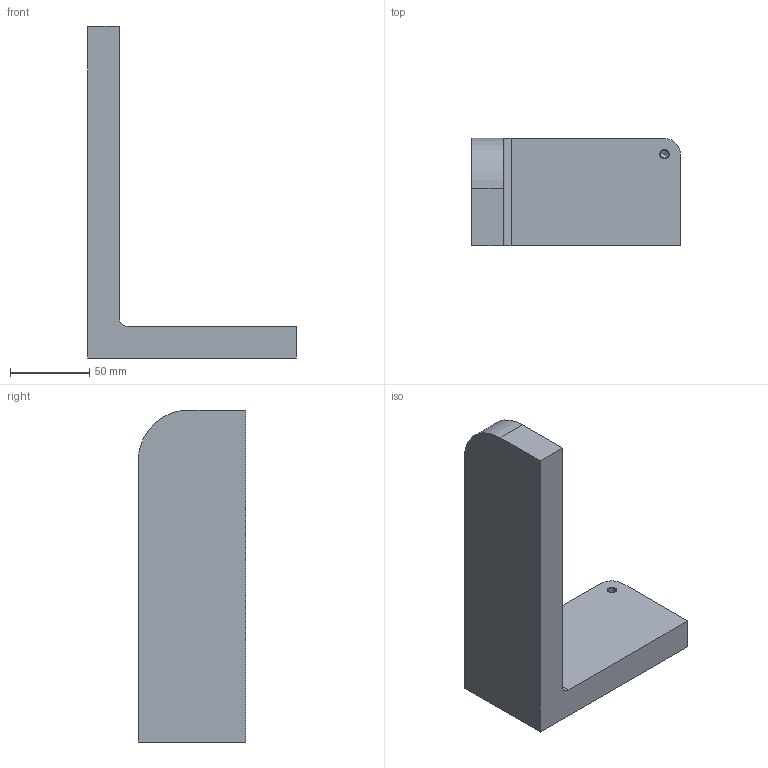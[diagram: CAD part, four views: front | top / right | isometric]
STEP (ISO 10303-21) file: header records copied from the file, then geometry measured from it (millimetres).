
FILE_DESCRIPTION(('CATIA V5 STEP Exchange'),'2;1');
FILE_NAME('C:\_Andres\UNIVERSIDAD\IQS\ASIGNATURAS\DAO\EXF\EXF-16172c\2inicio\Sarasa_Prat_Ej01_v32.stp','2017-03-05T15:11:12+00:00',('none'),('none'),'CATIA Version 5-6 Release 2014 SP1 HF18','CATIA V5 STEP AP203','none');
FILE_SCHEMA(('CONFIG_CONTROL_DESIGN'));
Length unit declared in the file: millimetre
Products named in the file (1): Sarasa_Prat_Ej01_v32
Bounding box: 132 x 68 x 210 mm (x, y, z)
Volume: 433147.8 mm3; surface area: 58890.1 mm2
Topology: 1 solids, 2 shells, 17 faces, 43 edges, 27 vertices
Faces by surface type: plane 8, cylinder 7, cone 2
Entity records: 513 total; most frequent: CARTESIAN_POINT 83, ORIENTED_EDGE 78, DIRECTION 69, EDGE_CURVE 41, AXIS2_PLACEMENT_3D 29, VECTOR 27, LINE 27, VERTEX_POINT 27
